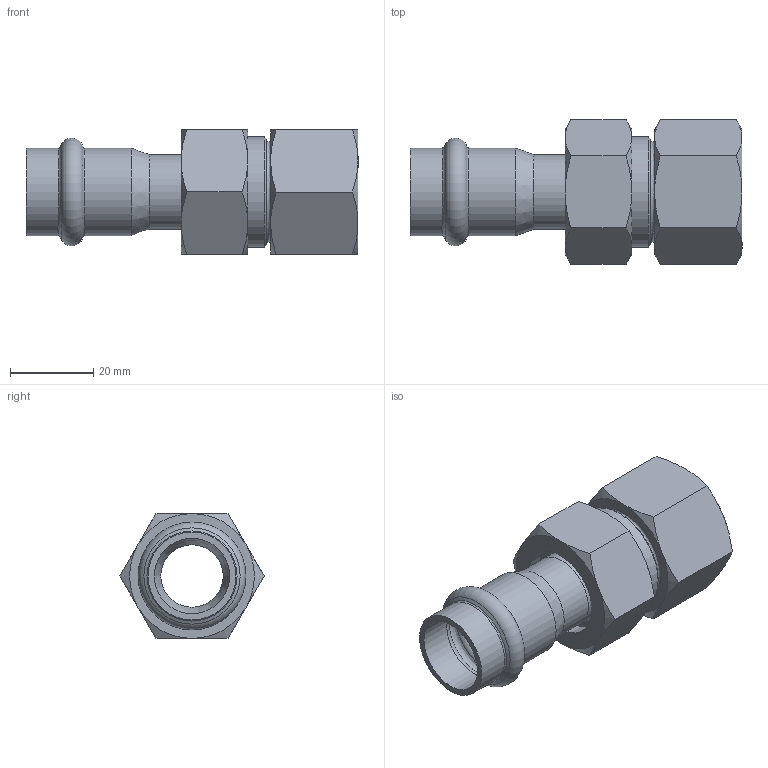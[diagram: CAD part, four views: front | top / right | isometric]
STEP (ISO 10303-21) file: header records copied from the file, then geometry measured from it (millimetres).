
FILE_DESCRIPTION((''),'2;1');
FILE_NAME('G:\Nirosan-Schmiedefeld\Technics\CAD\Bauteile VA\018\69330G1834(3).stp','2011-06-30T11:47:22',('herberg'),(''),'Autodesk Inventor 2009','Autodesk Inventor 2009','');
FILE_SCHEMA(('AUTOMOTIVE_DESIGN { 1 0 10303 214 1 1 1 1 }'));
Length unit declared in the file: millimetre
Products named in the file (7): 69330G1834(3); 69359mms1834(1); HM_6924318(1); R1834(0); FD_2417_EPDM(0); MS_SM1834(0); 69370G3434(1)
Assembly tree (6 placements, depth 3):
  69330G1834(3)
    69359mms1834(1)
      HM_6924318(1)
      R1834(0)
      FD_2417_EPDM(0)
      MS_SM1834(0)
    69370G3434(1)
Bounding box: 79.8 x 34.64 x 30 mm (x, y, z)
Volume: 20766.4 mm3; surface area: 16998.6 mm2
Topology: 5 solids, 5 shells, 84 faces, 165 edges, 96 vertices
Faces by surface type: cone 33, plane 25, cylinder 12, bspline 11, torus 3
Full cylindrical faces by diameter (mm): 15 x2, 17 x1, 18 x2, 18.15 x2, 21.15 x2, 23 x1, 24 x1, 26.441 x1
Entity records: 2455 total; most frequent: CARTESIAN_POINT 783, DIRECTION 324, ORIENTED_EDGE 260, AXIS2_PLACEMENT_3D 156, EDGE_LOOP 132, EDGE_CURVE 130, VERTEX_POINT 94, FACE_OUTER_BOUND 84
